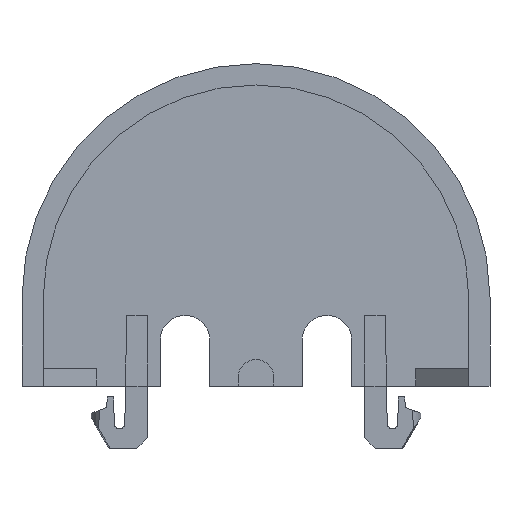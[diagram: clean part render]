
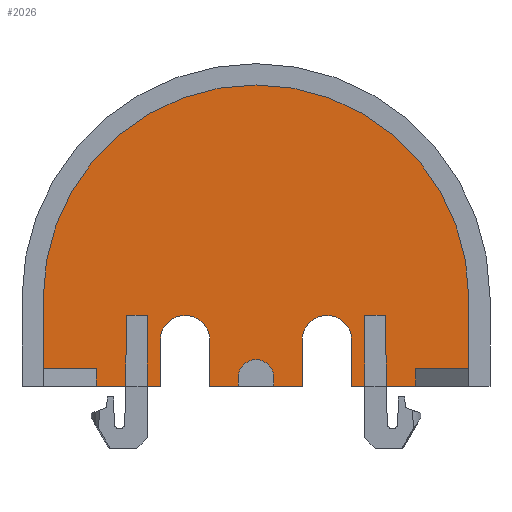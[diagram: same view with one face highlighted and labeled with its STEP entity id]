
A CAD part, left-side view. The second image highlights one B-rep face of the part: STEP entity #2026.
In plain terms, the highlighted planar face has unit normal (-1, 0, 0).
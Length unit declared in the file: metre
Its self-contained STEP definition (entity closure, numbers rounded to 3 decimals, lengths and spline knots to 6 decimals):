
#156=CARTESIAN_POINT(' ',(0.,0.007363,0.));
#157=VERTEX_POINT(' ',#156);
#266=CARTESIAN_POINT(' ',(0.,0.007293,0.004));
#267=VERTEX_POINT(' ',#266);
#281=CARTESIAN_POINT(' ',(0.,0.007293,0.004));
#286=DIRECTION(' ',(0.,0.017,-1.));
#291=VECTOR(' ',#286,1.);
#296=LINE('',#281,#291);
#301=EDGE_CURVE(' ',#267,#157,#296,.T.);
#351=CARTESIAN_POINT(' ',(0.,0.009,0.));
#356=DIRECTION(' ',(0.,-1.,0.));
#361=VECTOR(' ',#356,1.);
#366=LINE('',#351,#361);
#371=CARTESIAN_POINT(' ',(0.,0.009,0.));
#372=VERTEX_POINT(' ',#371);
#376=EDGE_CURVE(' ',#372,#157,#366,.T.);
#581=CARTESIAN_POINT(' ',(0.,0.0054,0.));
#582=VERTEX_POINT(' ',#581);
#596=CARTESIAN_POINT(' ',(0.,0.006125,0.));
#601=DIRECTION(' ',(0.,-1.,0.));
#606=VECTOR(' ',#601,1.);
#611=LINE('',#596,#606);
#616=CARTESIAN_POINT(' ',(0.,0.006125,0.));
#617=VERTEX_POINT(' ',#616);
#621=EDGE_CURVE(' ',#617,#582,#611,.T.);
#1051=CARTESIAN_POINT(' ',(0.,0.006125,0.004));
#1052=VERTEX_POINT(' ',#1051);
#1066=CARTESIAN_POINT(' ',(0.,0.006125,0.004));
#1071=DIRECTION(' ',(0.,1.,0.));
#1076=VECTOR(' ',#1071,1.);
#1081=LINE('',#1066,#1076);
#1086=EDGE_CURVE(' ',#1052,#267,#1081,.T.);
#1121=DIRECTION(' ',(-1.,0.,0.));
#1126=CARTESIAN_POINT(' ',(0.,0.012,0.));
#1131=DIRECTION(' ',(0.,-1.,0.));
#1136=AXIS2_PLACEMENT_3D(' ',#1126,#1121,#1131);
#1141=PLANE('',#1136);
#1146=CARTESIAN_POINT(' ',(0.,0.009,0.001));
#1151=DIRECTION(' ',(0.,1.,0.));
#1156=VECTOR(' ',#1151,1.);
#1161=LINE('',#1146,#1156);
#1166=CARTESIAN_POINT(' ',(0.,0.009,0.001));
#1167=VERTEX_POINT(' ',#1166);
#1171=CARTESIAN_POINT(' ',(0.,0.012,0.001));
#1172=VERTEX_POINT(' ',#1171);
#1176=EDGE_CURVE(' ',#1167,#1172,#1161,.T.);
#1181=ORIENTED_EDGE(' ',*,*,#1176,.F.);
#1186=CARTESIAN_POINT(' ',(0.,0.009,0.001));
#1191=DIRECTION(' ',(0.,0.,-1.));
#1196=VECTOR(' ',#1191,1.);
#1201=LINE('',#1186,#1196);
#1206=EDGE_CURVE(' ',#1167,#372,#1201,.T.);
#1211=ORIENTED_EDGE(' ',*,*,#1206,.T.);
#1216=ORIENTED_EDGE(' ',*,*,#376,.T.);
#1221=ORIENTED_EDGE(' ',*,*,#301,.F.);
#1226=ORIENTED_EDGE(' ',*,*,#1086,.F.);
#1231=CARTESIAN_POINT(' ',(0.,0.006125,0.));
#1236=DIRECTION(' ',(0.,0.,1.));
#1241=VECTOR(' ',#1236,1.);
#1246=LINE('',#1231,#1241);
#1251=EDGE_CURVE(' ',#617,#1052,#1246,.T.);
#1256=ORIENTED_EDGE(' ',*,*,#1251,.F.);
#1261=ORIENTED_EDGE(' ',*,*,#621,.T.);
#1266=CARTESIAN_POINT(' ',(0.,0.0054,0.));
#1271=DIRECTION(' ',(0.,0.,1.));
#1276=VECTOR(' ',#1271,1.);
#1281=LINE('',#1266,#1276);
#1286=CARTESIAN_POINT(' ',(0.,0.0054,0.0026));
#1287=VERTEX_POINT(' ',#1286);
#1291=EDGE_CURVE(' ',#582,#1287,#1281,.T.);
#1296=ORIENTED_EDGE(' ',*,*,#1291,.T.);
#1301=CARTESIAN_POINT(' ',(0.,0.004,0.0026));
#1306=DIRECTION(' ',(1.,0.,0.));
#1311=DIRECTION(' ',(0.,1.,0.));
#1316=AXIS2_PLACEMENT_3D(' ',#1301,#1306,#1311);
#1321=CIRCLE('',#1316,0.0014);
#1326=CARTESIAN_POINT(' ',(0.,0.0026,0.0026));
#1327=VERTEX_POINT(' ',#1326);
#1331=EDGE_CURVE(' ',#1287,#1327,#1321,.T.);
#1336=ORIENTED_EDGE(' ',*,*,#1331,.T.);
#1341=CARTESIAN_POINT(' ',(0.,0.0026,0.0026));
#1346=DIRECTION(' ',(0.,0.,-1.));
#1351=VECTOR(' ',#1346,1.);
#1356=LINE('',#1341,#1351);
#1361=CARTESIAN_POINT(' ',(0.,0.0026,0.));
#1362=VERTEX_POINT(' ',#1361);
#1366=EDGE_CURVE(' ',#1327,#1362,#1356,.T.);
#1371=ORIENTED_EDGE(' ',*,*,#1366,.T.);
#1376=CARTESIAN_POINT(' ',(0.,0.0026,0.));
#1381=DIRECTION(' ',(0.,-1.,0.));
#1386=VECTOR(' ',#1381,1.);
#1391=LINE('',#1376,#1386);
#1396=CARTESIAN_POINT(' ',(0.,0.001,0.));
#1397=VERTEX_POINT(' ',#1396);
#1401=EDGE_CURVE(' ',#1362,#1397,#1391,.T.);
#1406=ORIENTED_EDGE(' ',*,*,#1401,.T.);
#1411=CARTESIAN_POINT(' ',(0.,0.001,0.));
#1416=DIRECTION(' ',(0.,0.,1.));
#1421=VECTOR(' ',#1416,1.);
#1426=LINE('',#1411,#1421);
#1431=CARTESIAN_POINT(' ',(0.,0.001,0.0005));
#1432=VERTEX_POINT(' ',#1431);
#1436=EDGE_CURVE(' ',#1397,#1432,#1426,.T.);
#1441=ORIENTED_EDGE(' ',*,*,#1436,.T.);
#1446=CARTESIAN_POINT(' ',(0.,0.,0.0005));
#1451=DIRECTION(' ',(1.,0.,0.));
#1456=DIRECTION(' ',(0.,1.,0.));
#1461=AXIS2_PLACEMENT_3D(' ',#1446,#1451,#1456);
#1466=CIRCLE('',#1461,0.001);
#1471=CARTESIAN_POINT(' ',(0.,-0.001,0.0005));
#1472=VERTEX_POINT(' ',#1471);
#1476=EDGE_CURVE(' ',#1432,#1472,#1466,.T.);
#1481=ORIENTED_EDGE(' ',*,*,#1476,.T.);
#1486=CARTESIAN_POINT(' ',(0.,-0.001,0.0005));
#1491=DIRECTION(' ',(0.,0.,-1.));
#1496=VECTOR(' ',#1491,1.);
#1501=LINE('',#1486,#1496);
#1506=CARTESIAN_POINT(' ',(0.,-0.001,0.));
#1507=VERTEX_POINT(' ',#1506);
#1511=EDGE_CURVE(' ',#1472,#1507,#1501,.T.);
#1516=ORIENTED_EDGE(' ',*,*,#1511,.T.);
#1521=CARTESIAN_POINT(' ',(0.,-0.001,0.));
#1526=DIRECTION(' ',(0.,-1.,0.));
#1531=VECTOR(' ',#1526,1.);
#1536=LINE('',#1521,#1531);
#1541=CARTESIAN_POINT(' ',(0.,-0.0026,0.));
#1542=VERTEX_POINT(' ',#1541);
#1546=EDGE_CURVE(' ',#1507,#1542,#1536,.T.);
#1551=ORIENTED_EDGE(' ',*,*,#1546,.T.);
#1556=CARTESIAN_POINT(' ',(0.,-0.0026,0.));
#1561=DIRECTION(' ',(0.,0.,1.));
#1566=VECTOR(' ',#1561,1.);
#1571=LINE('',#1556,#1566);
#1576=CARTESIAN_POINT(' ',(0.,-0.0026,0.0026));
#1577=VERTEX_POINT(' ',#1576);
#1581=EDGE_CURVE(' ',#1542,#1577,#1571,.T.);
#1586=ORIENTED_EDGE(' ',*,*,#1581,.T.);
#1591=CARTESIAN_POINT(' ',(0.,-0.004,0.0026));
#1596=DIRECTION(' ',(1.,0.,0.));
#1601=DIRECTION(' ',(0.,1.,0.));
#1606=AXIS2_PLACEMENT_3D(' ',#1591,#1596,#1601);
#1611=CIRCLE('',#1606,0.0014);
#1616=CARTESIAN_POINT(' ',(0.,-0.0054,0.0026));
#1617=VERTEX_POINT(' ',#1616);
#1621=EDGE_CURVE(' ',#1577,#1617,#1611,.T.);
#1626=ORIENTED_EDGE(' ',*,*,#1621,.T.);
#1631=CARTESIAN_POINT(' ',(0.,-0.0054,0.0026));
#1636=DIRECTION(' ',(0.,0.,-1.));
#1641=VECTOR(' ',#1636,1.);
#1646=LINE('',#1631,#1641);
#1651=CARTESIAN_POINT(' ',(0.,-0.0054,0.));
#1652=VERTEX_POINT(' ',#1651);
#1656=EDGE_CURVE(' ',#1617,#1652,#1646,.T.);
#1661=ORIENTED_EDGE(' ',*,*,#1656,.T.);
#1666=CARTESIAN_POINT(' ',(0.,-0.0054,0.));
#1671=DIRECTION(' ',(0.,-1.,0.));
#1676=VECTOR(' ',#1671,1.);
#1681=LINE('',#1666,#1676);
#1686=CARTESIAN_POINT(' ',(0.,-0.006125,0.));
#1687=VERTEX_POINT(' ',#1686);
#1691=EDGE_CURVE(' ',#1652,#1687,#1681,.T.);
#1696=ORIENTED_EDGE(' ',*,*,#1691,.T.);
#1701=CARTESIAN_POINT(' ',(0.,-0.006125,0.004));
#1706=DIRECTION(' ',(0.,0.,-1.));
#1711=VECTOR(' ',#1706,1.);
#1716=LINE('',#1701,#1711);
#1721=CARTESIAN_POINT(' ',(0.,-0.006125,0.004));
#1722=VERTEX_POINT(' ',#1721);
#1726=EDGE_CURVE(' ',#1722,#1687,#1716,.T.);
#1731=ORIENTED_EDGE(' ',*,*,#1726,.F.);
#1736=CARTESIAN_POINT(' ',(0.,-0.007293,0.004));
#1741=DIRECTION(' ',(0.,1.,0.));
#1746=VECTOR(' ',#1741,1.);
#1751=LINE('',#1736,#1746);
#1756=CARTESIAN_POINT(' ',(0.,-0.007293,0.004));
#1757=VERTEX_POINT(' ',#1756);
#1761=EDGE_CURVE(' ',#1757,#1722,#1751,.T.);
#1766=ORIENTED_EDGE(' ',*,*,#1761,.F.);
#1771=CARTESIAN_POINT(' ',(0.,-0.007363,0.));
#1776=DIRECTION(' ',(0.,0.017,1.));
#1781=VECTOR(' ',#1776,1.);
#1786=LINE('',#1771,#1781);
#1791=CARTESIAN_POINT(' ',(0.,-0.007363,0.));
#1792=VERTEX_POINT(' ',#1791);
#1796=EDGE_CURVE(' ',#1792,#1757,#1786,.T.);
#1801=ORIENTED_EDGE(' ',*,*,#1796,.F.);
#1806=CARTESIAN_POINT(' ',(0.,-0.007363,0.));
#1811=DIRECTION(' ',(0.,-1.,0.));
#1816=VECTOR(' ',#1811,1.);
#1821=LINE('',#1806,#1816);
#1826=CARTESIAN_POINT(' ',(0.,-0.009,0.));
#1827=VERTEX_POINT(' ',#1826);
#1831=EDGE_CURVE(' ',#1792,#1827,#1821,.T.);
#1836=ORIENTED_EDGE(' ',*,*,#1831,.T.);
#1841=CARTESIAN_POINT(' ',(0.,-0.009,0.001));
#1846=DIRECTION(' ',(0.,0.,-1.));
#1851=VECTOR(' ',#1846,1.);
#1856=LINE('',#1841,#1851);
#1861=CARTESIAN_POINT(' ',(0.,-0.009,0.001));
#1862=VERTEX_POINT(' ',#1861);
#1866=EDGE_CURVE(' ',#1862,#1827,#1856,.T.);
#1871=ORIENTED_EDGE(' ',*,*,#1866,.F.);
#1876=CARTESIAN_POINT(' ',(0.,-0.012,0.001));
#1881=DIRECTION(' ',(0.,1.,0.));
#1886=VECTOR(' ',#1881,1.);
#1891=LINE('',#1876,#1886);
#1896=CARTESIAN_POINT(' ',(0.,-0.012,0.001));
#1897=VERTEX_POINT(' ',#1896);
#1901=EDGE_CURVE(' ',#1897,#1862,#1891,.T.);
#1906=ORIENTED_EDGE(' ',*,*,#1901,.F.);
#1911=CARTESIAN_POINT(' ',(0.,-0.012,0.001));
#1916=DIRECTION(' ',(0.,0.,1.));
#1921=VECTOR(' ',#1916,1.);
#1926=LINE('',#1911,#1921);
#1931=CARTESIAN_POINT(' ',(0.,-0.012,0.005));
#1932=VERTEX_POINT(' ',#1931);
#1936=EDGE_CURVE(' ',#1897,#1932,#1926,.T.);
#1941=ORIENTED_EDGE(' ',*,*,#1936,.T.);
#1946=CARTESIAN_POINT(' ',(0.,0.,0.005));
#1951=DIRECTION(' ',(-1.,0.,0.));
#1956=DIRECTION(' ',(0.,-1.,0.));
#1961=AXIS2_PLACEMENT_3D(' ',#1946,#1951,#1956);
#1966=CIRCLE('',#1961,0.012);
#1971=CARTESIAN_POINT(' ',(0.,0.012,0.005));
#1972=VERTEX_POINT(' ',#1971);
#1976=EDGE_CURVE(' ',#1932,#1972,#1966,.T.);
#1981=ORIENTED_EDGE(' ',*,*,#1976,.T.);
#1986=CARTESIAN_POINT(' ',(0.,0.012,0.005));
#1991=DIRECTION(' ',(0.,0.,-1.));
#1996=VECTOR(' ',#1991,1.);
#2001=LINE('',#1986,#1996);
#2006=EDGE_CURVE(' ',#1972,#1172,#2001,.T.);
#2011=ORIENTED_EDGE(' ',*,*,#2006,.T.);
#2016=EDGE_LOOP(' ',(#1181,#1211,#1216,#1221,#1226,#1256,#1261,#1296,#1336,#1371,#1406,#1441,#1481,#1516,#1551,#1586,#1626,#1661,#1696,#1731,#1766,#1801,#1836,#1871,#1906,#1941,#1981,#2011));
#2021=FACE_OUTER_BOUND(' ',#2016,.T.);
#2026=ADVANCED_FACE('',(#2021),#1141,.T.);
